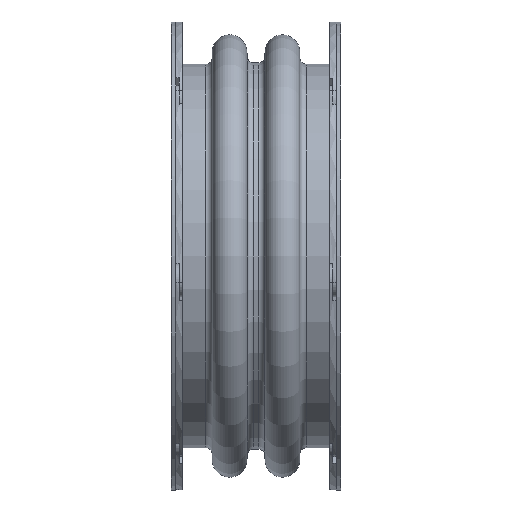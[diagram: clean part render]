
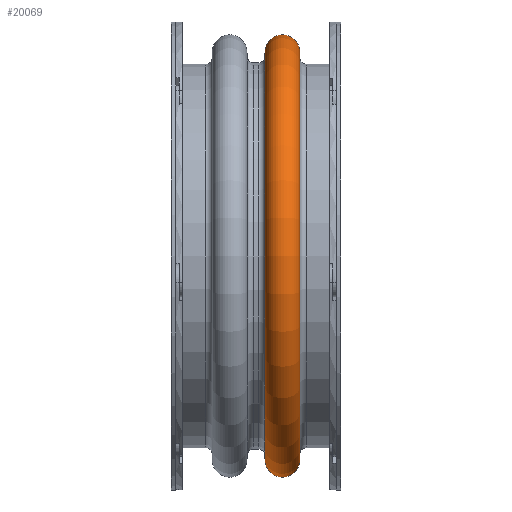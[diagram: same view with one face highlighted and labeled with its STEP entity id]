
A CAD part, front view. The second image highlights one B-rep face of the part: STEP entity #20069.
In plain terms, the highlighted toroidal (fillet/blend) face has major radius 428.625 mm and minor radius 36.513 mm.
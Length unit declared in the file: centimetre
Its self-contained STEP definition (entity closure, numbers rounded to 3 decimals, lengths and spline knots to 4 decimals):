
#285=FACE_BOUND('',#3220,.T.);
#1306=TOROIDAL_SURFACE('',#22023,42.8625,3.6513);
#1891=FACE_OUTER_BOUND('',#3219,.T.);
#3219=EDGE_LOOP('',(#15363));
#3220=EDGE_LOOP('',(#15364));
#7011=CIRCLE('',#22022,42.9835);
#7012=CIRCLE('',#22024,42.9835);
#8779=VERTEX_POINT('',#33287);
#8780=VERTEX_POINT('',#33290);
#11149=EDGE_CURVE('',#8779,#8779,#7011,.T.);
#11150=EDGE_CURVE('',#8780,#8780,#7012,.T.);
#15363=ORIENTED_EDGE('',*,*,#11150,.F.);
#15364=ORIENTED_EDGE('',*,*,#11149,.T.);
#20069=ADVANCED_FACE('',(#1891,#285),#1306,.T.);
#22022=AXIS2_PLACEMENT_3D('',#33288,#26707,#26708);
#22023=AXIS2_PLACEMENT_3D('',#33289,#26709,#26710);
#22024=AXIS2_PLACEMENT_3D('',#33291,#26711,#26712);
#26707=DIRECTION('center_axis',(1.,0.,0.));
#26708=DIRECTION('ref_axis',(0.,0.,-1.));
#26709=DIRECTION('center_axis',(1.,0.,0.));
#26710=DIRECTION('ref_axis',(0.,0.,-1.));
#26711=DIRECTION('center_axis',(1.,0.,0.));
#26712=DIRECTION('ref_axis',(0.,0.,-1.));
#33287=CARTESIAN_POINT('',(1.907,42.9835,0.));
#33288=CARTESIAN_POINT('Origin',(1.907,0.,
0.));
#33289=CARTESIAN_POINT('Origin',(5.5563,0.,0.));
#33290=CARTESIAN_POINT('',(9.2055,42.9835,0.));
#33291=CARTESIAN_POINT('Origin',(9.2055,0.,
0.));
